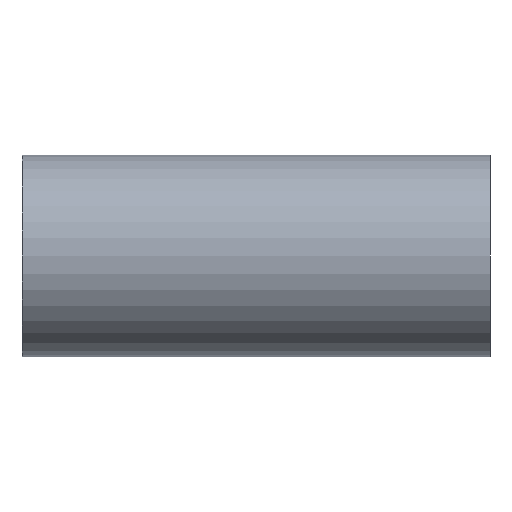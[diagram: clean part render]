
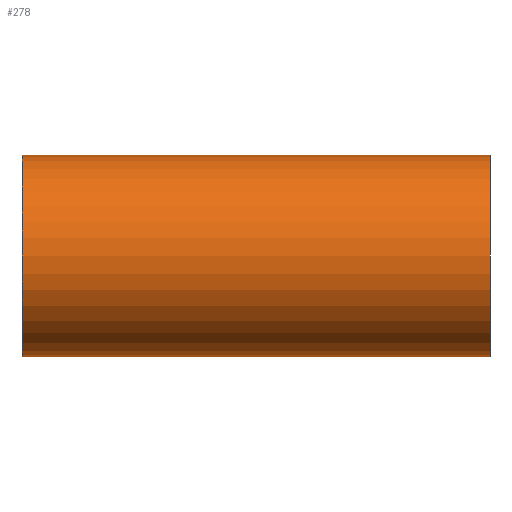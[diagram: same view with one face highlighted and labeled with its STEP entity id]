
A CAD part, front view. The second image highlights one B-rep face of the part: STEP entity #278.
In plain terms, the highlighted cylindrical face has radius 38.1 mm (diameter 76.2 mm), a partial arc.
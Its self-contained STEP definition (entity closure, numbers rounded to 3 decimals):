
#20 = ORIENTED_EDGE ( 'NONE', *, *, #78, .T. ) ;
#27 = CARTESIAN_POINT ( 'NONE',  ( 88.4, 0., 0. ) ) ;
#41 = CARTESIAN_POINT ( 'NONE',  ( 196.163, 0., 38.1 ) ) ;
#47 = VECTOR ( 'NONE', #264, 1000. ) ;
#49 = DIRECTION ( 'NONE',  ( -1., 0., 0. ) ) ;
#51 = ORIENTED_EDGE ( 'NONE', *, *, #142, .F. ) ;
#53 = DIRECTION ( 'NONE',  ( 0., 0., 1. ) ) ;
#57 = LINE ( 'NONE', #41, #525 ) ;
#59 = CARTESIAN_POINT ( 'NONE',  ( -88.4, 0., 38.1 ) ) ;
#78 = EDGE_CURVE ( 'NONE', #316, #462, #57, .T. ) ;
#82 = EDGE_CURVE ( 'NONE', #473, #316, #436, .T. ) ;
#89 = AXIS2_PLACEMENT_3D ( 'NONE', #27, #49, #53 ) ;
#105 = DIRECTION ( 'NONE',  ( -1., 0., 0. ) ) ;
#114 = DIRECTION ( 'NONE',  ( 0., 0., 1. ) ) ;
#117 = CARTESIAN_POINT ( 'NONE',  ( 196.163, 0., -38.1 ) ) ;
#120 = CARTESIAN_POINT ( 'NONE',  ( 196.163, 0., 0. ) ) ;
#129 = DIRECTION ( 'NONE',  ( -1., 0., 0. ) ) ;
#136 = AXIS2_PLACEMENT_3D ( 'NONE', #120, #129, #114 ) ;
#142 = EDGE_CURVE ( 'NONE', #473, #205, #298, .T. ) ;
#176 = CARTESIAN_POINT ( 'NONE',  ( -88.4, 0., 0. ) ) ;
#185 = DIRECTION ( 'NONE',  ( 1., 0., 0. ) ) ;
#187 = DIRECTION ( 'NONE',  ( 0., 0., 1. ) ) ;
#205 = VERTEX_POINT ( 'NONE', #250 ) ;
#221 = EDGE_LOOP ( 'NONE', ( #51, #517, #20, #375 ) ) ;
#228 = CARTESIAN_POINT ( 'NONE',  ( 88.4, 0., 38.1 ) ) ;
#250 = CARTESIAN_POINT ( 'NONE',  ( -88.4, 0., -38.1 ) ) ;
#264 = DIRECTION ( 'NONE',  ( -1., 0., 0. ) ) ;
#278 = ADVANCED_FACE ( 'NONE', ( #570 ), #317, .T. ) ;
#283 = EDGE_CURVE ( 'NONE', #462, #205, #426, .T. ) ;
#298 = LINE ( 'NONE', #117, #47 ) ;
#316 = VERTEX_POINT ( 'NONE', #228 ) ;
#317 = CYLINDRICAL_SURFACE ( 'NONE', #136, 38.1 ) ;
#375 = ORIENTED_EDGE ( 'NONE', *, *, #283, .T. ) ;
#426 = CIRCLE ( 'NONE', #509, 38.1 ) ;
#436 = CIRCLE ( 'NONE', #89, 38.1 ) ;
#462 = VERTEX_POINT ( 'NONE', #59 ) ;
#473 = VERTEX_POINT ( 'NONE', #484 ) ;
#484 = CARTESIAN_POINT ( 'NONE',  ( 88.4, 0., -38.1 ) ) ;
#509 = AXIS2_PLACEMENT_3D ( 'NONE', #176, #185, #187 ) ;
#517 = ORIENTED_EDGE ( 'NONE', *, *, #82, .T. ) ;
#525 = VECTOR ( 'NONE', #105, 1000. ) ;
#570 = FACE_OUTER_BOUND ( 'NONE', #221, .T. ) ;
